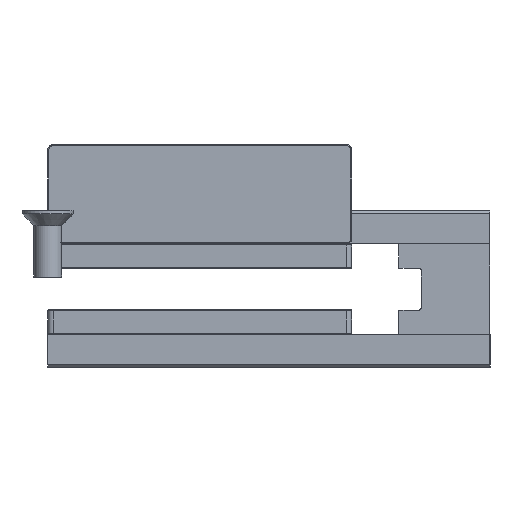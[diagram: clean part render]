
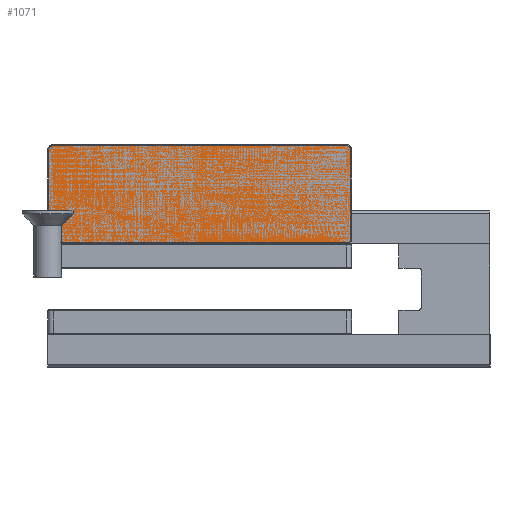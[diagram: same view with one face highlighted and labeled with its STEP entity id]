
A CAD part, front view. The second image highlights one B-rep face of the part: STEP entity #1071.
In plain terms, the highlighted planar face has unit normal (0, -1, 0).
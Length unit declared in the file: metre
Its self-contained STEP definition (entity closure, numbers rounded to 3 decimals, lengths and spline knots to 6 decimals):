
#1071 = ADVANCED_FACE( '', ( #2370 ), #2371, .T. );
#2370 = FACE_OUTER_BOUND( '', #4487, .T. );
#2371 = PLANE( '', #4488 );
#4487 = EDGE_LOOP( '', ( #6839, #6840, #6841, #6842, #6843, #6844, #6845, #6846 ) );
#4488 = AXIS2_PLACEMENT_3D( '', #6847, #6848, #6849 );
#6839 = ORIENTED_EDGE( '', *, *, #13852, .T. );
#6840 = ORIENTED_EDGE( '', *, *, #13853, .T. );
#6841 = ORIENTED_EDGE( '', *, *, #13854, .T. );
#6842 = ORIENTED_EDGE( '', *, *, #13855, .T. );
#6843 = ORIENTED_EDGE( '', *, *, #13856, .T. );
#6844 = ORIENTED_EDGE( '', *, *, #13857, .T. );
#6845 = ORIENTED_EDGE( '', *, *, #13858, .T. );
#6846 = ORIENTED_EDGE( '', *, *, #13859, .T. );
#6847 = CARTESIAN_POINT( '', ( 0.001, 0., 0.001 ) );
#6848 = DIRECTION( '', ( 0., -1., 0. ) );
#6849 = DIRECTION( '', ( 0., 0., -1. ) );
#13852 = EDGE_CURVE( '', #16234, #16235, #16236, .T. );
#13853 = EDGE_CURVE( '', #16235, #16237, #16238, .T. );
#13854 = EDGE_CURVE( '', #16237, #16239, #16240, .T. );
#13855 = EDGE_CURVE( '', #16239, #16241, #16242, .T. );
#13856 = EDGE_CURVE( '', #16241, #16243, #16244, .T. );
#13857 = EDGE_CURVE( '', #16243, #16245, #16246, .T. );
#13858 = EDGE_CURVE( '', #16245, #16247, #16248, .T. );
#13859 = EDGE_CURVE( '', #16247, #16234, #16249, .T. );
#16234 = VERTEX_POINT( '', #19942 );
#16235 = VERTEX_POINT( '', #19943 );
#16236 = CIRCLE( '', #19944, 0.0008 );
#16237 = VERTEX_POINT( '', #19945 );
#16238 = LINE( '', #19946, #19947 );
#16239 = VERTEX_POINT( '', #19948 );
#16240 = CIRCLE( '', #19949, 0.0008 );
#16241 = VERTEX_POINT( '', #19950 );
#16242 = LINE( '', #19951, #19952 );
#16243 = VERTEX_POINT( '', #19953 );
#16244 = CIRCLE( '', #19954, 0.0008 );
#16245 = VERTEX_POINT( '', #19955 );
#16246 = LINE( '', #19956, #19957 );
#16247 = VERTEX_POINT( '', #19958 );
#16248 = CIRCLE( '', #19959, 0.0008 );
#16249 = LINE( '', #19960, #19961 );
#19942 = CARTESIAN_POINT( '', ( 0.0548, 0., 0.017 ) );
#19943 = CARTESIAN_POINT( '', ( 0.054, 0., 0.0178 ) );
#19944 = AXIS2_PLACEMENT_3D( '', #24753, #24754, #24755 );
#19945 = CARTESIAN_POINT( '', ( 0.001, 0., 0.0178 ) );
#19946 = CARTESIAN_POINT( '', ( 0.001, 0., 0.0178 ) );
#19947 = VECTOR( '', #24756, 1. );
#19948 = CARTESIAN_POINT( '', ( 0.0002, 0., 0.017 ) );
#19949 = AXIS2_PLACEMENT_3D( '', #24757, #24758, #24759 );
#19950 = CARTESIAN_POINT( '', ( 0.0002, 0., 0.001 ) );
#19951 = CARTESIAN_POINT( '', ( 0.0002, 0., 0.001 ) );
#19952 = VECTOR( '', #24760, 1. );
#19953 = CARTESIAN_POINT( '', ( 0.001, 0., 0.0002 ) );
#19954 = AXIS2_PLACEMENT_3D( '', #24761, #24762, #24763 );
#19955 = CARTESIAN_POINT( '', ( 0.054, 0., 0.0002 ) );
#19956 = CARTESIAN_POINT( '', ( 0.001, 0., 0.0002 ) );
#19957 = VECTOR( '', #24764, 1. );
#19958 = CARTESIAN_POINT( '', ( 0.0548, 0., 0.001 ) );
#19959 = AXIS2_PLACEMENT_3D( '', #24765, #24766, #24767 );
#19960 = CARTESIAN_POINT( '', ( 0.0548, 0., 0.001 ) );
#19961 = VECTOR( '', #24768, 1. );
#24753 = CARTESIAN_POINT( '', ( 0.054, 0., 0.017 ) );
#24754 = DIRECTION( '', ( 0., -1., 0. ) );
#24755 = DIRECTION( '', ( 0., 0., -1. ) );
#24756 = DIRECTION( '', ( -1., 0., 0. ) );
#24757 = CARTESIAN_POINT( '', ( 0.001, 0., 0.017 ) );
#24758 = DIRECTION( '', ( 0., -1., 0. ) );
#24759 = DIRECTION( '', ( 0., 0., -1. ) );
#24760 = DIRECTION( '', ( 0., 0., -1. ) );
#24761 = CARTESIAN_POINT( '', ( 0.001, 0., 0.001 ) );
#24762 = DIRECTION( '', ( 0., -1., 0. ) );
#24763 = DIRECTION( '', ( 0., 0., -1. ) );
#24764 = DIRECTION( '', ( 1., 0., 0. ) );
#24765 = CARTESIAN_POINT( '', ( 0.054, 0., 0.001 ) );
#24766 = DIRECTION( '', ( 0., -1., 0. ) );
#24767 = DIRECTION( '', ( 0., 0., -1. ) );
#24768 = DIRECTION( '', ( 0., 0., 1. ) );
